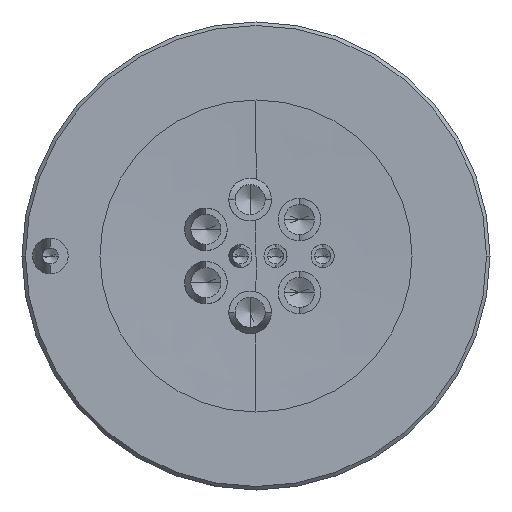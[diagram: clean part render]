
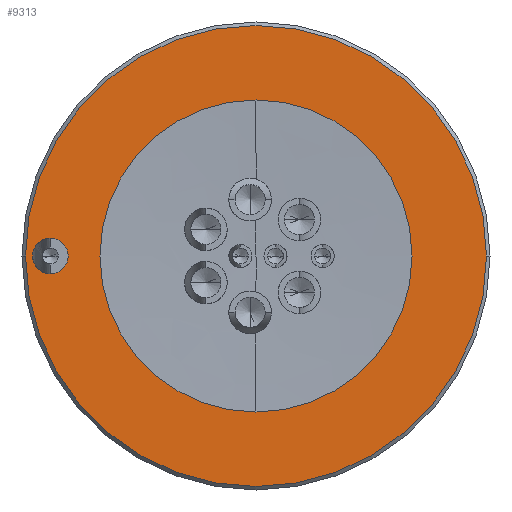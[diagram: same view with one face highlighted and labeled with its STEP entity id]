
A CAD part, left-side view. The second image highlights one B-rep face of the part: STEP entity #9313.
In plain terms, the highlighted planar face has unit normal (-1, 0, 0).
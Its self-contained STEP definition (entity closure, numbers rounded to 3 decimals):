
#207=CARTESIAN_POINT('',(-12.5,0.,0.));
#208=DIRECTION('',(1.,0.,0.));
#209=DIRECTION('',(0.,1.,0.));
#210=AXIS2_PLACEMENT_3D('',#207,#208,#209);
#212=CARTESIAN_POINT('',(-12.5,0.,0.));
#213=DIRECTION('',(1.,0.,0.));
#214=DIRECTION('',(0.,0.,1.));
#215=AXIS2_PLACEMENT_3D('',#212,#213,#214);
#217=CARTESIAN_POINT('',(-12.5,0.,0.));
#218=DIRECTION('',(1.,0.,0.));
#219=DIRECTION('',(0.,-1.,0.));
#220=AXIS2_PLACEMENT_3D('',#217,#218,#219);
#222=CARTESIAN_POINT('',(-12.5,0.,0.));
#223=DIRECTION('',(1.,0.,0.));
#224=DIRECTION('',(0.,0.,-1.));
#225=AXIS2_PLACEMENT_3D('',#222,#223,#224);
#227=CARTESIAN_POINT('',(-12.5,5.8,0.));
#228=DIRECTION('',(-1.,0.,0.));
#229=DIRECTION('',(0.,-1.,0.));
#230=AXIS2_PLACEMENT_3D('',#227,#228,#229);
#232=CARTESIAN_POINT('',(-12.5,5.8,0.));
#233=DIRECTION('',(-1.,0.,0.));
#234=DIRECTION('',(0.,1.,0.));
#235=AXIS2_PLACEMENT_3D('',#232,#233,#234);
#237=CARTESIAN_POINT('',(-12.5,0.,0.));
#238=DIRECTION('',(-1.,0.,0.));
#239=DIRECTION('',(0.,-1.,0.));
#240=AXIS2_PLACEMENT_3D('',#237,#238,#239);
#242=CARTESIAN_POINT('',(-12.5,0.,0.));
#243=DIRECTION('',(-1.,0.,0.));
#244=DIRECTION('',(0.,1.,0.));
#245=AXIS2_PLACEMENT_3D('',#242,#243,#244);
#7927=CARTESIAN_POINT('',(-12.5,6.229,0.));
#7928=CARTESIAN_POINT('',(-12.5,5.371,0.));
#7929=VERTEX_POINT('',#7927);
#7930=VERTEX_POINT('',#7928);
#7931=CARTESIAN_POINT('',(-12.5,0.,6.5));
#7932=CARTESIAN_POINT('',(-12.5,-6.5,0.));
#7933=VERTEX_POINT('',#7931);
#7934=VERTEX_POINT('',#7932);
#7935=CARTESIAN_POINT('',(-12.5,6.5,0.));
#7936=VERTEX_POINT('',#7935);
#7937=CARTESIAN_POINT('',(-12.5,0.,-6.5));
#7938=VERTEX_POINT('',#7937);
#7939=CARTESIAN_POINT('',(-12.5,-4.4,0.));
#7940=CARTESIAN_POINT('',(-12.5,4.4,0.));
#7941=VERTEX_POINT('',#7939);
#7942=VERTEX_POINT('',#7940);
#9287=CARTESIAN_POINT('',(-12.5,0.,0.));
#9288=DIRECTION('',(1.,0.,0.));
#9289=DIRECTION('',(0.,-1.,0.));
#9290=AXIS2_PLACEMENT_3D('',#9287,#9288,#9289);
#9291=PLANE('',#9290);
#9293=ORIENTED_EDGE('',*,*,#9292,.T.);
#9295=ORIENTED_EDGE('',*,*,#9294,.T.);
#9297=ORIENTED_EDGE('',*,*,#9296,.T.);
#9299=ORIENTED_EDGE('',*,*,#9298,.T.);
#9300=EDGE_LOOP('',(#9293,#9295,#9297,#9299));
#9301=FACE_OUTER_BOUND('',#9300,.F.);
#9303=ORIENTED_EDGE('',*,*,#9302,.T.);
#9304=ORIENTED_EDGE('',*,*,#9270,.T.);
#9305=EDGE_LOOP('',(#9303,#9304));
#9306=FACE_BOUND('',#9305,.F.);
#9308=ORIENTED_EDGE('',*,*,#9307,.T.);
#9310=ORIENTED_EDGE('',*,*,#9309,.T.);
#9311=EDGE_LOOP('',(#9308,#9310));
#9312=FACE_BOUND('',#9311,.F.);
#211=CIRCLE('',#210,6.5);
#216=CIRCLE('',#215,6.5);
#221=CIRCLE('',#220,6.5);
#226=CIRCLE('',#225,6.5);
#231=CIRCLE('',#230,0.429);
#236=CIRCLE('',#235,0.429);
#241=CIRCLE('',#240,4.4);
#246=CIRCLE('',#245,4.4);
#9270=EDGE_CURVE('',#7929,#7930,#236,.T.);
#9292=EDGE_CURVE('',#7936,#7933,#211,.T.);
#9294=EDGE_CURVE('',#7933,#7934,#216,.T.);
#9296=EDGE_CURVE('',#7934,#7938,#221,.T.);
#9298=EDGE_CURVE('',#7938,#7936,#226,.T.);
#9302=EDGE_CURVE('',#7930,#7929,#231,.T.);
#9307=EDGE_CURVE('',#7941,#7942,#241,.T.);
#9309=EDGE_CURVE('',#7942,#7941,#246,.T.);
#9313=ADVANCED_FACE('',(#9301,#9306,#9312),#9291,.F.);
